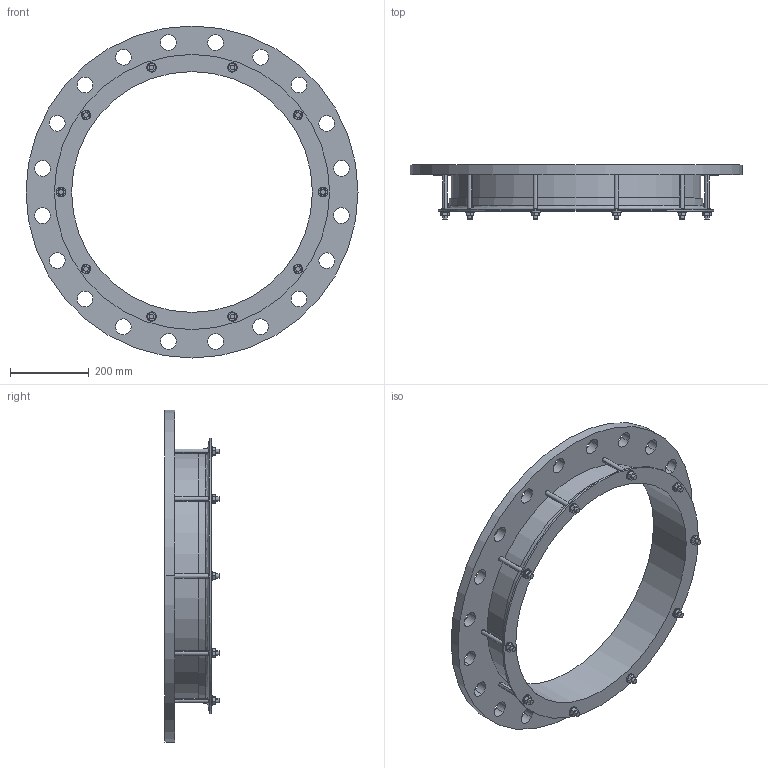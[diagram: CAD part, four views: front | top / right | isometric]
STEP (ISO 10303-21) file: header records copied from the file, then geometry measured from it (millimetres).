
FILE_DESCRIPTION((''),'2;1');
FILE_NAME('610X600PN25','2019-04-04T',('mfairey'),('Glynwed Pipe Systems'),'CREO PARAMETRIC BY PTC INC, 2016130','CREO PARAMETRIC BY PTC INC, 2016130','');
FILE_SCHEMA(('CONFIG_CONTROL_DESIGN'));
Length unit declared in the file: millimetre
Products named in the file (1): 610X600PN25
Bounding box: 845 x 137.45 x 845 mm (x, y, z)
Volume: 8919402.4 mm3; surface area: 1187484 mm2
Topology: 1 solids, 1 shells, 208 faces, 548 edges, 364 vertices
Faces by surface type: cylinder 108, plane 94, cone 4, torus 2
Entity records: 7202 total; most frequent: CARTESIAN_POINT 1756, DIRECTION 1132, ORIENTED_EDGE 1096, EDGE_CURVE 548, AXIS2_PLACEMENT_3D 420, VERTEX_POINT 364, VECTOR 292, LINE 292
